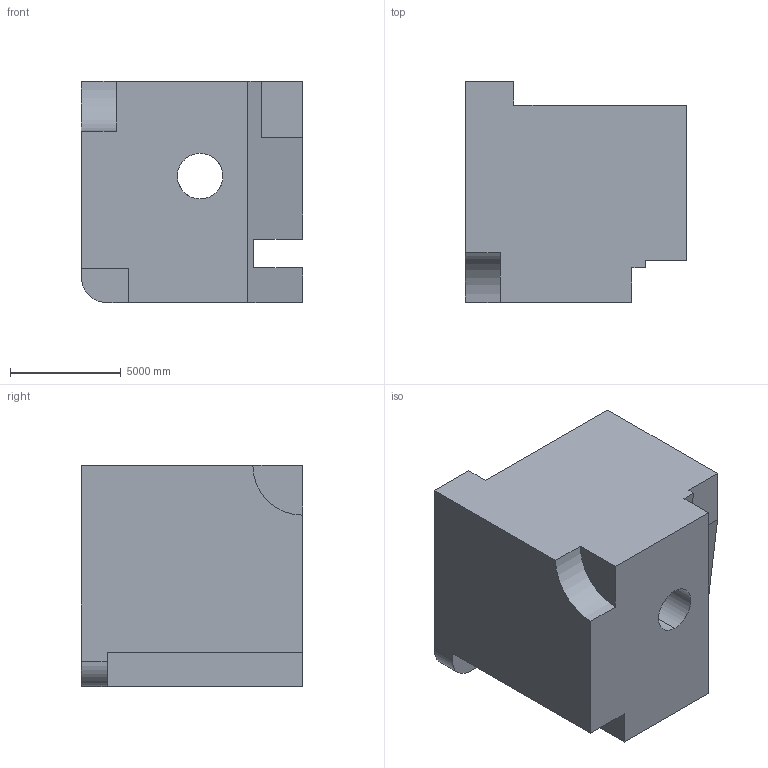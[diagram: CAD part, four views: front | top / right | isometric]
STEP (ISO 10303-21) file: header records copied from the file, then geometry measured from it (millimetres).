
FILE_DESCRIPTION (( 'STEP AP203' ), '1' );
FILE_NAME ('798.STEP', '2022-07-29T13:17:13', ( 'user' ), ( '' ), 'SwSTEP 2.0', 'SolidWorks 2021', '' );
FILE_SCHEMA (( 'CONFIG_CONTROL_DESIGN' ));
Length unit declared in the file: centimetre
Products named in the file (1): 798
Bounding box: 10000 x 10000 x 10000 mm (x, y, z)
Volume: 711048396185.4 mm3; surface area: 633871242.5 mm2
Topology: 1 solids, 1 shells, 25 faces, 72 edges, 48 vertices
Faces by surface type: plane 21, cylinder 4
Entity records: 893 total; most frequent: CARTESIAN_POINT 158, ORIENTED_EDGE 144, DIRECTION 126, EDGE_CURVE 72, LINE 62, VECTOR 62, VERTEX_POINT 48, AXIS2_PLACEMENT_3D 32
